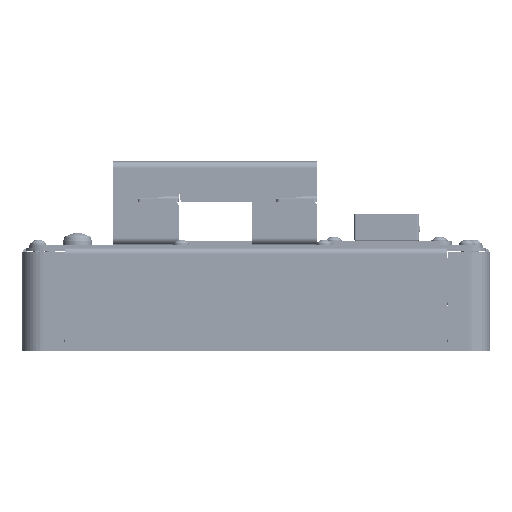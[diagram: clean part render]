
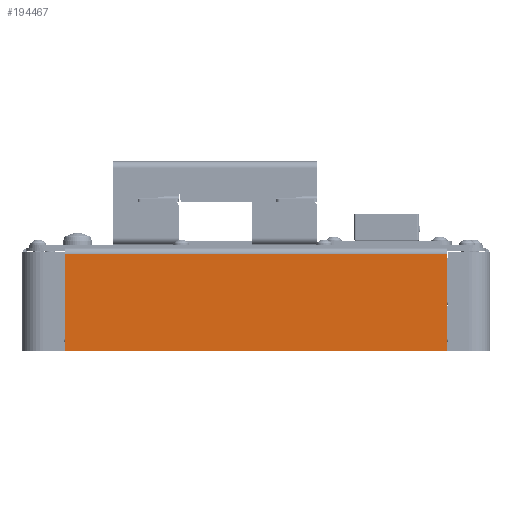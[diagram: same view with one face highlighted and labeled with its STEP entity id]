
A CAD part, left-side view. The second image highlights one B-rep face of the part: STEP entity #194467.
In plain terms, the highlighted planar face has unit normal (-1, 0, 0).
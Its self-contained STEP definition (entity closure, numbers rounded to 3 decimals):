
#1463 = DIRECTION ( 'NONE',  ( 0., 0., 1. ) ) ;
#8675 = CARTESIAN_POINT ( 'NONE',  ( -181.5, 117.3, -4. ) ) ;
#11194 = ORIENTED_EDGE ( 'NONE', *, *, #152486, .F. ) ;
#12777 = CARTESIAN_POINT ( 'NONE',  ( -181.5, 117.3, -63. ) ) ;
#26105 = AXIS2_PLACEMENT_3D ( 'NONE', #137269, #109066, #238691 ) ;
#26597 = EDGE_CURVE ( 'NONE', #89953, #31095, #96753, .T. ) ;
#28928 = CARTESIAN_POINT ( 'NONE',  ( -181.5, -117.3, -4. ) ) ;
#31095 = VERTEX_POINT ( 'NONE', #8675 ) ;
#32356 = ORIENTED_EDGE ( 'NONE', *, *, #143340, .F. ) ;
#38581 = EDGE_LOOP ( 'NONE', ( #32356, #81532, #238390, #11194 ) ) ;
#49053 = EDGE_CURVE ( 'NONE', #65016, #31095, #174333, .T. ) ;
#51449 = VECTOR ( 'NONE', #152404, 1000. ) ;
#58246 = CARTESIAN_POINT ( 'NONE',  ( -181.5, 117.3, -63. ) ) ;
#62663 = FACE_OUTER_BOUND ( 'NONE', #38581, .T. ) ;
#65016 = VERTEX_POINT ( 'NONE', #28928 ) ;
#81532 = ORIENTED_EDGE ( 'NONE', *, *, #49053, .T. ) ;
#87645 = VECTOR ( 'NONE', #132825, 1000. ) ;
#89953 = VERTEX_POINT ( 'NONE', #12777 ) ;
#96753 = LINE ( 'NONE', #205621, #237673 ) ;
#97395 = VECTOR ( 'NONE', #109015, 1000. ) ;
#109015 = DIRECTION ( 'NONE',  ( 0., 0., -1. ) ) ;
#109066 = DIRECTION ( 'NONE',  ( -1., 0., 0. ) ) ;
#113762 = CARTESIAN_POINT ( 'NONE',  ( -181.5, -117.3, -63. ) ) ;
#132825 = DIRECTION ( 'NONE',  ( 0., 1., 0. ) ) ;
#137269 = CARTESIAN_POINT ( 'NONE',  ( -181.5, 0., 0. ) ) ;
#143340 = EDGE_CURVE ( 'NONE', #65016, #165542, #241045, .T. ) ;
#152404 = DIRECTION ( 'NONE',  ( 0., 1., 0. ) ) ;
#152417 = LINE ( 'NONE', #58246, #87645 ) ;
#152486 = EDGE_CURVE ( 'NONE', #165542, #89953, #152417, .T. ) ;
#156840 = PLANE ( 'NONE',  #26105 ) ;
#165542 = VERTEX_POINT ( 'NONE', #199143 ) ;
#174333 = LINE ( 'NONE', #229367, #51449 ) ;
#194467 = ADVANCED_FACE ( 'NONE', ( #62663 ), #156840, .T. ) ;
#199143 = CARTESIAN_POINT ( 'NONE',  ( -181.5, -117.3, -63. ) ) ;
#205621 = CARTESIAN_POINT ( 'NONE',  ( -181.5, 117.3, -2. ) ) ;
#229367 = CARTESIAN_POINT ( 'NONE',  ( -181.5, 0., -4. ) ) ;
#237673 = VECTOR ( 'NONE', #1463, 1000. ) ;
#238390 = ORIENTED_EDGE ( 'NONE', *, *, #26597, .F. ) ;
#238691 = DIRECTION ( 'NONE',  ( 0., 0., 1. ) ) ;
#241045 = LINE ( 'NONE', #113762, #97395 ) ;
